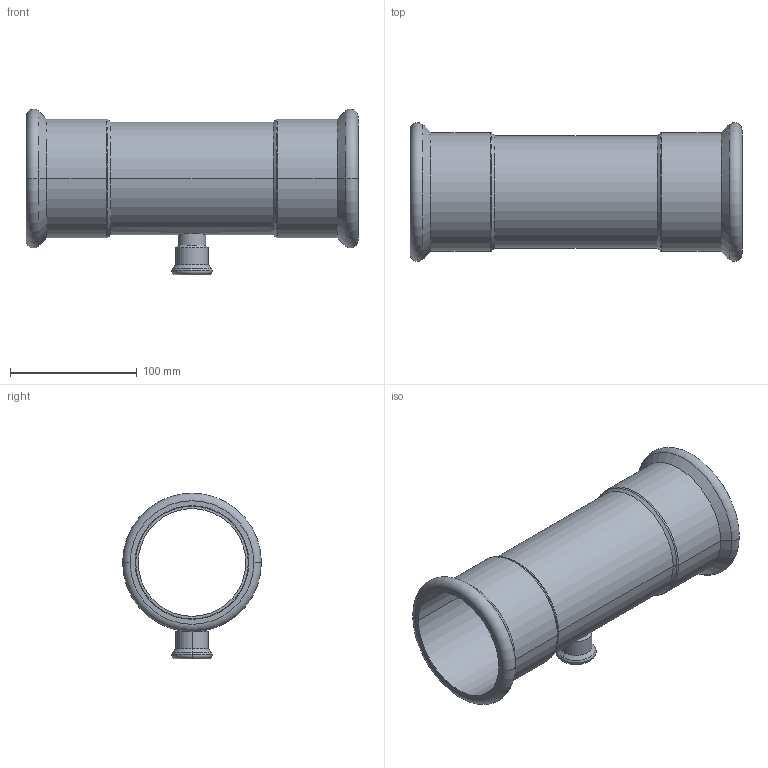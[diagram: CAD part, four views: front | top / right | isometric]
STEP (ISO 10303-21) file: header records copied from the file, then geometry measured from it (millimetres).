
FILE_DESCRIPTION(('CoCreate Modeling STEP Export'),'2;1');
FILE_NAME('C1415 88.9x22x88.9.stp','2014-11-12T10:51:06',(''),(''),'CoCreate Modeling STEP processor for AP214 (Solid Model)','CoCreate Modeling 17.00A 17-Jun-2010 (C) Parametric Technology GmbH','');
FILE_SCHEMA(('AUTOMOTIVE_DESIGN { 1 0 10303 214 1 1 1 1 }'));
Length unit declared in the file: millimetre
Products named in the file (2): C1415_89x22x89
Assembly tree (1 placements, depth 2):
  C1415_89x22x89
    C1415_89x22x89
Bounding box: 262 x 109.48 x 130.74 mm (x, y, z)
Volume: 211689.8 mm3; surface area: 162054.9 mm2
Topology: 1 solids, 1 shells, 63 faces, 130 edges, 78 vertices
Faces by surface type: cylinder 29, torus 12, cone 12, plane 10
Entity records: 2508 total; most frequent: CARTESIAN_POINT 1322, ORIENTED_EDGE 260, DIRECTION 208, EDGE_CURVE 130, AXIS2_PLACEMENT_3D 84, VERTEX_POINT 78, EDGE_LOOP 74, FACE_OUTER_BOUND 63
